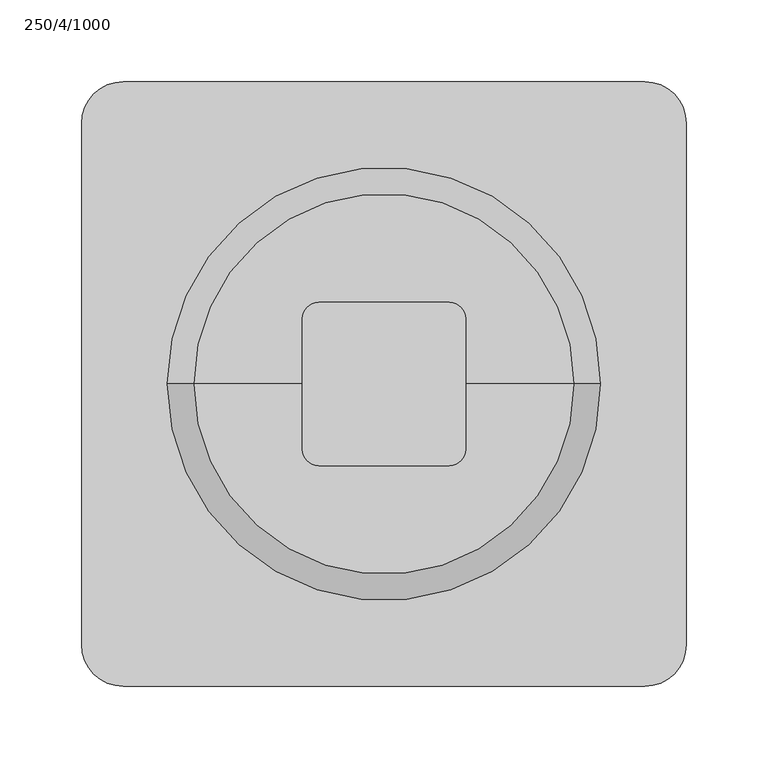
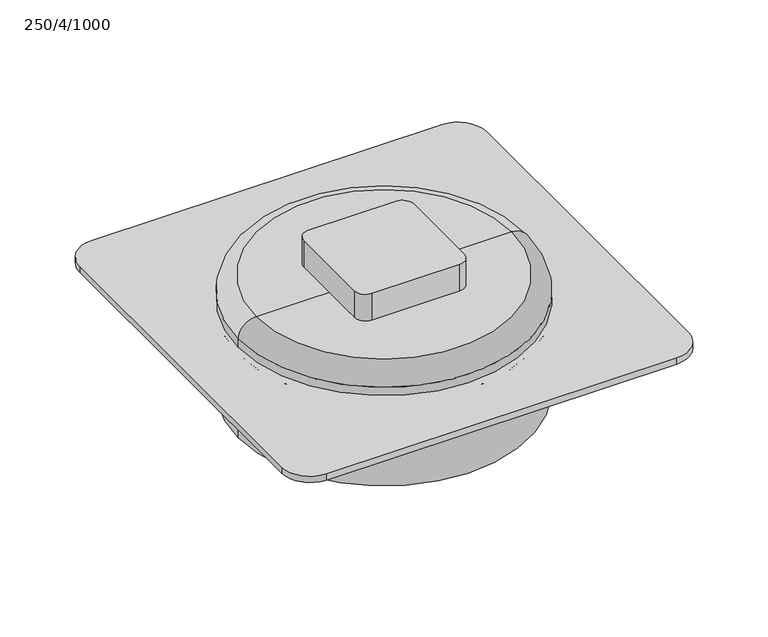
"""IFC4 building model written with IfcOpenShell, lengths in millimetres: unitary equipment geometry, VE-Wentylator-ParaForma-Harmann-SHARK-Wywiewny : 250/4/1000."""

import ifcopenshell
import ifcopenshell.guid

model = None  # the IFC model being written
_history = None  # IfcOwnerHistory: only IFC2X3 demands one
_inside = {}  # id of a spatial element -> (the spatial element, [elements in it])
_under = {}  # id of a project, library or spatial element -> (it, [spatial elements below it])
_declared = {}  # id of a project -> (the project, [libraries it declares])
_typed = {}  # id of a type object -> (the type object, [elements of that type])
_made_of = {}  # id of a material, layer set ... -> (it, [elements and type objects made of it])


def new_model(schema):
    """Start an empty IFC model of exactly this schema.

    Asked for "IFC4X3", IfcOpenShell would pick the latest addendum, in which some entities
    have other attributes; the version numbers below select the first issue.
    IFC2X3 requires an IfcOwnerHistory on every rooted entity: one is made here for all.
    """
    global model, _history
    if schema == "IFC4X3":
        model = ifcopenshell.file(schema_version=(4, 3, 0, 0))
    else:
        model = ifcopenshell.file(schema=schema)
    _inside.clear()
    _under.clear()
    _declared.clear()
    _typed.clear()
    _made_of.clear()
    _history = None
    if model.schema == "IFC2X3":
        org = make("IfcOrganization", Name="unknown")
        user = make(
            "IfcPersonAndOrganization",
            ThePerson=make("IfcPerson", FamilyName="unknown"),
            TheOrganization=org,
        )
        app = make(
            "IfcApplication",
            ApplicationDeveloper=org,
            Version="unknown",
            ApplicationFullName="unknown",
            ApplicationIdentifier="unknown",
        )
        _history = make(
            "IfcOwnerHistory",
            OwningUser=user,
            OwningApplication=app,
            ChangeAction="ADDED",
            CreationDate=0,
        )
    return model


def make(cls, **values):
    """One entity of the class cls with the attributes given. An attribute that is None is left unset."""
    return model.create_entity(
        cls, **{name: value for name, value in values.items() if value is not None}
    )


def rooted(cls, **values):
    """An entity with a GlobalId (a new one), such as an element, a storey or a relation."""
    return make(cls, GlobalId=ifcopenshell.guid.new(), OwnerHistory=_history, **values)


def si_unit(unit_type, name, prefix=None):
    """IfcSIUnit, for example si_unit("LENGTHUNIT", "METRE", prefix="MILLI")."""
    return make("IfcSIUnit", UnitType=unit_type, Prefix=prefix, Name=name)


def assignment(units):
    """IfcUnitAssignment: the units of a project."""
    return None if units is None else make("IfcUnitAssignment", Units=units)


def point(xyz):
    """IfcCartesianPoint."""
    return None if xyz is None else make("IfcCartesianPoint", Coordinates=xyz)


def direction(xyz):
    """IfcDirection."""
    return None if xyz is None else make("IfcDirection", DirectionRatios=xyz)


def frame(location, z_axis=None, x_axis=None):
    """IfcAxis2Placement3D, a coordinate frame: its origin and axes. An axis left out is left unset."""
    return make(
        "IfcAxis2Placement3D",
        Location=point(location),
        Axis=direction(z_axis),
        RefDirection=direction(x_axis),
    )


def frame_2d(location, x_axis=None):
    """IfcAxis2Placement2D, a coordinate frame in the plane: its origin and x axis."""
    return make(
        "IfcAxis2Placement2D", Location=point(location), RefDirection=direction(x_axis)
    )


def origin():
    """The frame at (0, 0, 0) with its axes left unset."""
    return frame((0.0, 0.0, 0.0))


def origin_with_axes():
    """The frame at (0, 0, 0) with the z axis (0, 0, 1) and the x axis (1, 0, 0) written out."""
    return frame((0.0, 0.0, 0.0), z_axis=(0.0, 0.0, 1.0), x_axis=(1.0, 0.0, 0.0))


def origin_2d():
    """The frame at (0, 0) in the plane with its x axis left unset."""
    return frame_2d((0.0, 0.0))


def place(relative_to, where):
    """IfcLocalPlacement: puts the frame where relative to a parent placement (None: the world)."""
    return make(
        "IfcLocalPlacement", PlacementRelTo=relative_to, RelativePlacement=where
    )


def context(
    kind, dimensions, precision=None, world=None, true_north=None, identifier=None
):
    """IfcGeometricRepresentationContext, for example the 3D "Model" context."""
    return make(
        "IfcGeometricRepresentationContext",
        ContextIdentifier=identifier,
        ContextType=kind,
        CoordinateSpaceDimension=dimensions,
        Precision=precision,
        WorldCoordinateSystem=world,
        TrueNorth=true_north,
    )


def project(units=None, contexts=None):
    """IfcProject with its units and contexts."""
    return rooted(
        "IfcProject",
        Name="project",
        RepresentationContexts=contexts,
        UnitsInContext=assignment(units),
    )


def spatial(cls, under=None, at=None, **own):
    """A site, building, storey or space (cls), placed at a placement, below another one or the project."""
    s = rooted(cls, ObjectPlacement=at, **own)
    if under is not None:
        _under.setdefault(under.id(), (under, []))[1].append(s)
    return s


def polyline(points):
    """IfcPolyline through the points."""
    return make("IfcPolyline", Points=[point(p) for p in points])


def circle_curve(where, radius):
    """IfcCircle in the frame where."""
    return make("IfcCircle", Position=where, Radius=radius)


def ellipse_curve(where, semi_axis1, semi_axis2):
    """IfcEllipse in the frame where."""
    return make(
        "IfcEllipse", Position=where, SemiAxis1=semi_axis1, SemiAxis2=semi_axis2
    )


def trimmed(basis, trim1, trim2, sense, master):
    """IfcTrimmedCurve: the piece of a basis curve between two trims."""
    return make(
        "IfcTrimmedCurve",
        BasisCurve=basis,
        Trim1=trim1,
        Trim2=trim2,
        SenseAgreement=sense,
        MasterRepresentation=master,
    )


def segment(curve, same_sense, transition):
    """IfcCompositeCurveSegment."""
    return make(
        "IfcCompositeCurveSegment",
        Transition=transition,
        SameSense=same_sense,
        ParentCurve=curve,
    )


def composite_curve(segments, self_intersect=None):
    """IfcCompositeCurve: segments joined end to end."""
    return make("IfcCompositeCurve", Segments=segments, SelfIntersect=self_intersect)


def outline(outer, holes=None, kind="AREA"):
    """IfcArbitraryClosedProfileDef: a profile drawn as a closed curve; with holes, ...WithVoids."""
    if holes is None:
        return make("IfcArbitraryClosedProfileDef", ProfileType=kind, OuterCurve=outer)
    return make(
        "IfcArbitraryProfileDefWithVoids",
        ProfileType=kind,
        OuterCurve=outer,
        InnerCurves=holes,
    )


def extrude(swept, where, along, depth):
    """IfcExtrudedAreaSolid: the profile swept, set in the frame where, extruded along a direction by depth."""
    return make(
        "IfcExtrudedAreaSolid",
        SweptArea=swept,
        Position=where,
        ExtrudedDirection=direction(along),
        Depth=depth,
    )


def shape(context_of_items, identifier, shape_type, items):
    """IfcShapeRepresentation: the items that make up one representation, for example the "Body"."""
    return make(
        "IfcShapeRepresentation",
        ContextOfItems=context_of_items,
        RepresentationIdentifier=identifier,
        RepresentationType=shape_type,
        Items=items,
    )


def source(mapping_origin, context_of_items, identifier, shape_type, items):
    """IfcRepresentationMap: a shape defined once, which mapped items show again and again."""
    return make(
        "IfcRepresentationMap",
        MappingOrigin=mapping_origin,
        MappedRepresentation=shape(context_of_items, identifier, shape_type, items),
    )


def transform(
    local_origin,
    x_axis=None,
    y_axis=None,
    z_axis=None,
    scale=None,
    scale2=None,
    scale3=None,
    uniform=True,
):
    """IfcCartesianTransformationOperator3D, or its non-uniform kind. x_axis, y_axis, z_axis: its Axis1, 2, 3."""
    if uniform:
        return make(
            "IfcCartesianTransformationOperator3D",
            Axis1=direction(x_axis),
            Axis2=direction(y_axis),
            LocalOrigin=point(local_origin),
            Scale=scale,
            Axis3=direction(z_axis),
        )
    return make(
        "IfcCartesianTransformationOperator3DnonUniform",
        Axis1=direction(x_axis),
        Axis2=direction(y_axis),
        LocalOrigin=point(local_origin),
        Scale=scale,
        Axis3=direction(z_axis),
        Scale2=scale2,
        Scale3=scale3,
    )


def mapped(mapping_source, mapping_target):
    """IfcMappedItem: shows the shape of a source again, moved by a transform."""
    return make(
        "IfcMappedItem", MappingSource=mapping_source, MappingTarget=mapping_target
    )


def made_of(thing, what):
    """Note that an element or type object is made of a material, layer set ...; save() writes the relation."""
    if what is not None:
        _made_of.setdefault(what.id(), (what, []))[1].append(thing)
    return thing


def element(
    cls,
    number,
    at=None,
    inside=None,
    cuts=None,
    type_object=None,
    material=None,
    context=None,
    identifier="Body",
    shape_type=None,
    held_by="IfcProductDefinitionShape",
    body=None,
    shapes=None,
    **own,
):
    """One element of the class cls, such as IfcWall. Its Tag is "e" and its number.

    at: its placement. inside: the storey or other place that contains it. cuts: it is an
    opening in that element (IfcRelVoidsElement). A single representation is given by context,
    identifier, shape_type and body (its items); several are given by shapes. held_by: the class
    of the entity that holds the representations. save() writes the other relations.
    """
    e = rooted(cls, Tag="e%d" % number, ObjectPlacement=at, **own)
    if body is not None:
        shapes = [shape(context, identifier, shape_type, body)]
    if shapes is not None:
        e.Representation = make(held_by, Representations=shapes)
    if inside is not None:
        _inside.setdefault(inside.id(), (inside, []))[1].append(e)
    if cuts is not None:
        rooted(
            "IfcRelVoidsElement", RelatingBuildingElement=cuts, RelatedOpeningElement=e
        )
    if type_object is not None:
        _typed.setdefault(type_object.id(), (type_object, []))[1].append(e)
    return made_of(e, material)


def aggregate(whole, parts):
    """IfcRelAggregates: a whole, such as a stair, and the parts it consists of."""
    return rooted("IfcRelAggregates", RelatingObject=whole, RelatedObjects=parts)


def save(model, path):
    """Write the relations noted so far, then the file.

    IfcRelAggregates (storeys below a building ...), IfcRelContainedInSpatialStructure (elements
    in a storey), IfcRelDefinesByType, IfcRelAssociatesMaterial and IfcRelDeclares: one each for
    every whole, place, type object, material and project.
    """
    for whole, parts in _under.values():
        aggregate(whole, parts)
    for where, things in _inside.values():
        rooted(
            "IfcRelContainedInSpatialStructure",
            RelatedElements=things,
            RelatingStructure=where,
        )
    for kind, things in _typed.values():
        rooted("IfcRelDefinesByType", RelatedObjects=things, RelatingType=kind)
    for what, things in _made_of.values():
        rooted("IfcRelAssociatesMaterial", RelatedObjects=things, RelatingMaterial=what)
    for by, libraries in _declared.values():
        rooted("IfcRelDeclares", RelatingContext=by, RelatedDefinitions=libraries)
    model.write(path)


def plane_surface(at):
    """IfcPlane: the flat surface through the origin of the frame at, square to its z axis."""
    return make("IfcPlane", Position=at)


def cylinder_surface(at, radius):
    """IfcCylindricalSurface: all points at the distance radius from the z axis of the frame at."""
    return make("IfcCylindricalSurface", Position=at, Radius=radius)


def revolved_surface(curve, axis_point, axis_direction):
    """IfcSurfaceOfRevolution: the curve turned about the line through axis_point along axis_direction."""
    return make(
        "IfcSurfaceOfRevolution",
        SweptCurve=make("IfcArbitraryOpenProfileDef", ProfileType="CURVE", Curve=curve),
        AxisPosition=make("IfcAxis1Placement", Location=point(axis_point), Axis=direction(axis_direction)),
    )


def advanced_brep(points, edges, surfaces, faces):
    """IfcAdvancedBrep: a solid bounded by faces that lie on surfaces and meet in shared edges.

    An edge is (start, end): straight between two places in points (the first is 0);
    or (start, end, curve); or (start, end, curve, False) where it runs against its curve.
    A face is (place in surfaces, loops), or (place, loops, False) where it looks against
    its surface's normal. A loop lists edges by number (the first is 1), with a minus sign
    where the edge is run from its end to its start. The first loop is the outer one.
    """
    corners = [point(p) for p in points]
    vertices = [make("IfcVertexPoint", VertexGeometry=c) for c in corners]
    made = []
    for start, end, *more in edges:
        made.append(
            make(
                "IfcEdgeCurve",
                EdgeStart=vertices[start],
                EdgeEnd=vertices[end],
                EdgeGeometry=more[0] if more else make("IfcPolyline", Points=[corners[start], corners[end]]),
                SameSense=more[1] if len(more) > 1 else True,
            )
        )
    hull = []
    for where, loops, *sense in faces:
        bounds = []
        for j, loop in enumerate(loops):
            ring = [make("IfcOrientedEdge", EdgeElement=made[abs(k) - 1], Orientation=k > 0) for k in loop]
            bounds.append(
                make(
                    "IfcFaceOuterBound" if j == 0 else "IfcFaceBound",
                    Bound=make("IfcEdgeLoop", EdgeList=ring),
                    Orientation=True,
                )
            )
        hull.append(make("IfcAdvancedFace", Bounds=bounds, FaceSurface=surfaces[where], SameSense=sense[0] if sense else True))
    return make("IfcAdvancedBrep", Outer=make("IfcClosedShell", CfsFaces=hull))


def unitary_equipment_250_4_1000_9b77035d(model_context):
    return source(origin(), model_context, "Body", "SolidModel", [
        advanced_brep(
        [(132.5, 0.0, 6.0), (-132.5, 0.0, 6.0), (0.0, 0.0, 6.0), (132.5, 0.0, 14.0), (-132.5, 0.0, 14.0), (116.5, 0.0, 30.0), (-116.5, 0.0, 30.0), (0.0, 0.0, 30.0)],
        [
            (0, 1, circle_curve(frame((0.0, 0.0, 6.0), z_axis=(0.0, 0.0, -1.0), x_axis=(-1.0000000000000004, 0.0, 0.0)), 132.5)),
            (1, 2),
            (2, 0),
            (1, 0, circle_curve(frame((0.0, 0.0, 6.0), z_axis=(0.0, 0.0, -1.0), x_axis=(-1.0000000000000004, 0.0, 0.0)), 132.5)),
            (3, 4, circle_curve(frame((0.0, 0.0, 14.0), z_axis=(0.0, 0.0, -1.0), x_axis=(-1.0000000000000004, 0.0, 0.0)), 132.5)),
            (4, 1),
            (0, 3),
            (4, 3, circle_curve(frame((0.0, 0.0, 14.0), z_axis=(0.0, 0.0, -1.0), x_axis=(-1.0000000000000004, 0.0, 0.0)), 132.5)),
            (5, 6, circle_curve(frame((0.0, 0.0, 30.0), z_axis=(0.0, 0.0, -1.0), x_axis=(-1.0000000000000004, 0.0, 0.0)), 116.5)),
            (6, 4, circle_curve(frame((-116.5, 0.0, 14.0), z_axis=(0.0, -1.0000000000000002, 0.0), x_axis=(0.0, 0.0, -1.0000000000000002)), 16.0)),
            (3, 5, circle_curve(frame((116.5, 0.0, 14.0), z_axis=(0.0, -1.0000000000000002, 0.0), x_axis=(0.0, 0.0, -1.0000000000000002)), 16.0)),
            (6, 5, circle_curve(frame((0.0, 0.0, 30.0), z_axis=(0.0, 0.0, -1.0), x_axis=(-1.0000000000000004, 0.0, 0.0)), 116.5)),
            (7, 6),
            (5, 7),
        ],
        [
            plane_surface(frame((0.0, 0.0, 6.0), z_axis=(0.0, 0.0, -1.0), x_axis=(-1.0, 0.0, 0.0))),
            cylinder_surface(frame((0.0, 0.0, 30.0), z_axis=(0.0, 0.0, 1.0000000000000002), x_axis=(-1.0000000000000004, 0.0, 0.0)), 132.5),
            revolved_surface(trimmed(ellipse_curve(frame((-116.5, 0.0, 14.0), z_axis=(0.0, 1.0000000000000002, 0.0), x_axis=(0.0, 0.0, -1.0000000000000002)), 16.0, 16.0), [point((-132.5, 0.0, 14.0))], [point((-116.5, 0.0, 30.0))], True, "CARTESIAN"), (0.0, 0.0, 30.0), (0.0, 0.0, 1.0000000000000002)),
            plane_surface(frame((0.0, 0.0, 30.0), z_axis=(0.0, 0.0, 1.0), x_axis=(-1.0, 0.0, 0.0))),
        ],
        [
            (0, [[1, 2, 3]]),
            (0, [[4, -3, -2]]),
            (1, [[5, 6, -1, 7]]),
            (1, [[8, -7, -4, -6]]),
            (2, [[9, 10, -5, 11]]),
            (2, [[12, -11, -8, -10]]),
            (3, [[13, -9, 14]]),
            (3, [[-14, -12, -13]]),
        ],
    ),
        extrude(outline(composite_curve([segment(trimmed(circle_curve(origin_2d(), 50.0), [point((-50.0, 0.0))], [point((50.0, 0.0))], False, "CARTESIAN"), True, "CONTINUOUS"), segment(trimmed(circle_curve(origin_2d(), 50.0), [point((50.0, 0.0))], [point((-50.0, 0.0))], False, "CARTESIAN"), True, "CONTINUOUS")], self_intersect=False)), frame((0.0, 0.0, -81.0), z_axis=(0.0, 0.0, 1.0), x_axis=(1.0, 0.0, 0.0)), (0.0, 0.0, 1.0), 14.0),
        advanced_brep(
        [(0.0, 0.0, 0.0), (-133.5, 0.0, 0.0), (133.5, 0.0, 0.0), (132.5, 0.0, -81.0), (-132.5, 0.0, -81.0), (0.0, 0.0, -81.0), (132.5, 0.0, -1.0), (-132.5, 0.0, -1.0)],
        [
            (0, 1),
            (1, 2, circle_curve(frame((0.0, 0.0, 0.0), z_axis=(0.0, 0.0, 1.0), x_axis=(-1.0000000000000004, 0.0, 0.0)), 133.5)),
            (2, 0),
            (2, 1, circle_curve(frame((0.0, 0.0, 0.0), z_axis=(0.0, 0.0, 1.0), x_axis=(-1.0000000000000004, 0.0, 0.0)), 133.5)),
            (3, 4, circle_curve(frame((0.0, 0.0, -81.0), z_axis=(0.0, 0.0, -1.0), x_axis=(-1.0000000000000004, 0.0, 0.0)), 132.5)),
            (4, 5),
            (5, 3),
            (4, 3, circle_curve(frame((0.0, 0.0, -81.0), z_axis=(0.0, 0.0, -1.0), x_axis=(-1.0000000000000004, 0.0, 0.0)), 132.5)),
            (6, 7, circle_curve(frame((0.0, 0.0, -1.0), z_axis=(0.0, 0.0, -1.0), x_axis=(-1.0000000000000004, 0.0, 0.0)), 132.5)),
            (7, 4),
            (3, 6),
            (7, 6, circle_curve(frame((0.0, 0.0, -1.0), z_axis=(0.0, 0.0, -1.0), x_axis=(-1.0000000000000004, 0.0, 0.0)), 132.5)),
            (1, 7, circle_curve(frame((-133.5, 0.0, -1.0), z_axis=(0.0, 1.0000000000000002, 0.0), x_axis=(0.0, 0.0, -1.0000000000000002)), 1.0)),
            (6, 2, circle_curve(frame((133.5, 0.0, -1.0), z_axis=(0.0, 1.0000000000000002, 0.0), x_axis=(0.0, 0.0, -1.0000000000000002)), 1.0)),
        ],
        [
            plane_surface(frame((0.0, 0.0, 0.0), z_axis=(0.0, 0.0, 1.0), x_axis=(-1.0, 0.0, 0.0))),
            plane_surface(frame((0.0, 0.0, -81.0), z_axis=(0.0, 0.0, -1.0), x_axis=(-1.0, 0.0, 0.0))),
            cylinder_surface(frame((0.0, 0.0, 0.0), z_axis=(0.0, 0.0, 1.0000000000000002), x_axis=(-1.0000000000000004, 0.0, 0.0)), 132.5),
            revolved_surface(trimmed(ellipse_curve(frame((-133.5, 0.0, -1.0), z_axis=(0.0, -1.0000000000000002, 0.0), x_axis=(0.0, 0.0, -1.0000000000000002)), 1.0, 1.0), [point((-132.5, 0.0, -1.0))], [point((-133.5, 0.0, 0.0))], True, "CARTESIAN"), (0.0, 0.0, 0.0), (0.0, 0.0, 1.0000000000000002)),
        ],
        [
            (0, [[1, 2, 3]]),
            (0, [[-3, 4, -1]]),
            (1, [[5, 6, 7]]),
            (1, [[8, -7, -6]]),
            (2, [[9, 10, -5, 11]]),
            (2, [[12, -11, -8, -10]]),
            (3, [[-2, 13, -9, 14]]),
            (3, [[-4, -14, -12, -13]]),
        ],
    ),
        extrude(outline(composite_curve([segment(polyline([(40.0, -50.0), (-40.0, -50.0)]), True, "CONTINUOUS"), segment(trimmed(circle_curve(frame_2d((-40.0, -40.0)), 10.0), [point((-40.0, -50.0))], [point((-50.0, -40.0))], False, "CARTESIAN"), True, "CONTINUOUS"), segment(polyline([(-50.0, -40.0), (-50.0, 40.0)]), True, "CONTINUOUS"), segment(trimmed(circle_curve(frame_2d((-40.0, 40.0)), 10.0), [point((-50.0, 40.0))], [point((-40.0, 50.0))], False, "CARTESIAN"), True, "CONTINUOUS"), segment(polyline([(-40.0, 50.0), (40.0, 50.0)]), True, "CONTINUOUS"), segment(trimmed(circle_curve(frame_2d((40.0, 40.0)), 10.0), [point((40.0, 50.0))], [point((50.0, 40.0))], False, "CARTESIAN"), True, "CONTINUOUS"), segment(polyline([(50.0, 40.0), (50.0, -40.0)]), True, "CONTINUOUS"), segment(trimmed(circle_curve(frame_2d((40.0, -40.0)), 10.0), [point((50.0, -40.0))], [point((40.0, -50.0))], False, "CARTESIAN"), True, "CONTINUOUS")], self_intersect=False)), frame((0.0, 0.0, 30.0), z_axis=(0.0, 0.0, 1.0), x_axis=(1.0, 0.0, 0.0)), (0.0, 0.0, 1.0), 26.0),
        extrude(outline(composite_curve([segment(polyline([(159.5, -185.0), (-159.5, -185.0)]), True, "CONTINUOUS"), segment(trimmed(circle_curve(frame_2d((-159.5, -159.5)), 25.5), [point((-159.5, -185.0))], [point((-185.0, -159.5))], False, "CARTESIAN"), True, "CONTINUOUS"), segment(polyline([(-185.0, -159.5), (-185.0, 159.5)]), True, "CONTINUOUS"), segment(trimmed(circle_curve(frame_2d((-159.5, 159.5)), 25.5), [point((-185.0, 159.5))], [point((-159.5, 185.0))], False, "CARTESIAN"), True, "CONTINUOUS"), segment(polyline([(-159.5, 185.0), (159.5, 185.0)]), True, "CONTINUOUS"), segment(trimmed(circle_curve(frame_2d((159.5, 159.5)), 25.5), [point((159.5, 185.0))], [point((185.0, 159.5))], False, "CARTESIAN"), True, "CONTINUOUS"), segment(polyline([(185.0, 159.5), (185.0, -159.5)]), True, "CONTINUOUS"), segment(trimmed(circle_curve(frame_2d((159.5, -159.5)), 25.5), [point((185.0, -159.5))], [point((159.5, -185.0))], False, "CARTESIAN"), True, "CONTINUOUS")], self_intersect=False)), origin_with_axes(), (0.0, 0.0, 1.0), 6.0),
    ])


if __name__ == "__main__":
    model = new_model("IFC4")
    model_context = context("Model", 3, world=origin())
    ifc_project = project(units=[si_unit("LENGTHUNIT", "METRE", prefix="MILLI")], contexts=[model_context])
    site = spatial("IfcSite", under=ifc_project)
    building = spatial("IfcBuilding", under=site)
    placement = place(None, origin())
    unitary_equipment_250_4_1000_shape = unitary_equipment_250_4_1000_9b77035d(model_context)
    element("IfcUnitaryEquipment", 1, ObjectType="VE-Wentylator-ParaForma-Harmann-SHARK-Wywiewny : 250/4/1000", at=placement, inside=building, context=model_context, shape_type="MappedRepresentation", body=[
        mapped(unitary_equipment_250_4_1000_shape, transform((0.0, 0.0, 0.0), x_axis=(1.0, 0.0, 0.0), y_axis=(0.0, 1.0, 0.0), z_axis=(0.0, 0.0, 1.0))),
    ])
    save(model, "model.ifc")
